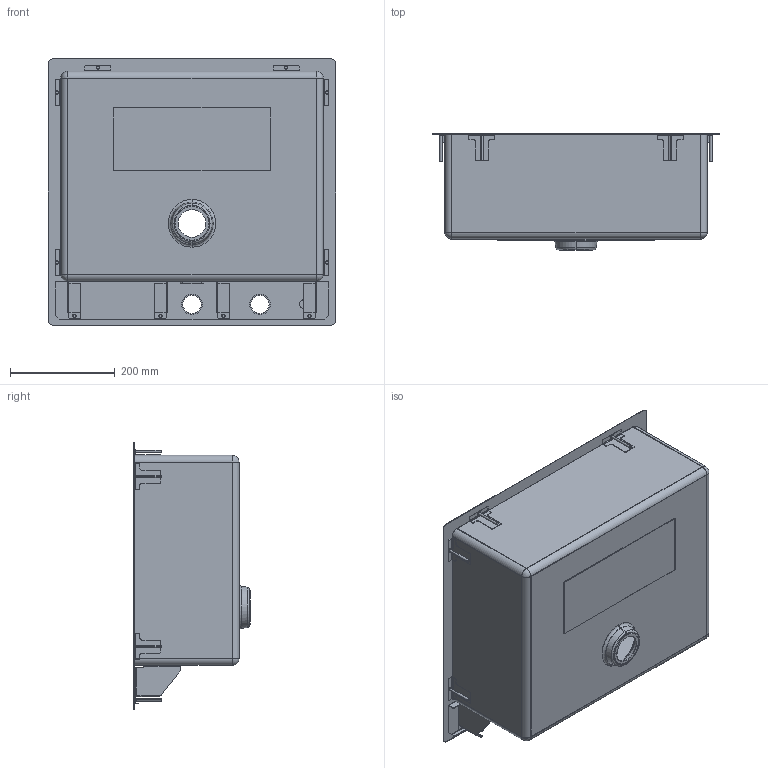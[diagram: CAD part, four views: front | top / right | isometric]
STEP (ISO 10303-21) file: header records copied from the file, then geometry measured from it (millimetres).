
FILE_DESCRIPTION (( 'STEP AP203' ), '1' );
FILE_NAME ('Matra Mix 55x51 1v automatica.STEP', '2021-01-27T12:56:11', ( 'Utente Windows' ), ( '' ), 'SwSTEP 2.0', 'SolidWorks 2020', '' );
FILE_SCHEMA (( 'CONFIG_CONTROL_DESIGN' ));
Length unit declared in the file: millimetre
Products named in the file (18): Ass. RC11SV_DX - RC11; RC11SV_DX - RC11; Ass. GB17P6; GB17P1 - base gancio_Piegato; RC11SV_SX - RC12; TF13 - smorzante 300x120x1,8; Matra - piletta integrata_MIX 55x51 1v 2f; GB17P4 - inserto filettato M5; Ass. RC11SV_SX - RC12; Matra Mix 55x51 1v automatica; RC21F - D5040_Piegato
Assembly tree (33 placements, depth 3):
  Matra Mix 55x51 1v automatica
    Matra - piletta integrata_MIX 55x51 1v 2f
    Ass. RC11SV_DX - RC11
      RC11SV_DX - RC11
      GB17P4 - inserto filettato M5
    Ass. RC11SV_SX - RC12
      RC11SV_SX - RC12
      GB17P4 - inserto filettato M5
    Ass. GB17P6
      GB17P1 - base gancio_Piegato
      GB17P4 - inserto filettato M5
    Ass. GB17P6
      GB17P1 - base gancio_Piegato
      GB17P4 - inserto filettato M5
    Ass. GB17P6
      GB17P1 - base gancio_Piegato
      GB17P4 - inserto filettato M5
    Ass. GB17P6
      GB17P1 - base gancio_Piegato
      GB17P4 - inserto filettato M5
    Ass. GB17P6
      GB17P1 - base gancio_Piegato
      GB17P4 - inserto filettato M5
    Ass. GB17P6
      GB17P1 - base gancio_Piegato
      GB17P4 - inserto filettato M5
    TF13 - smorzante 300x120x1,8
    RC21F - D5040_Piegato
    Ass. RC11SV_SX - RC12
      RC11SV_SX - RC12
      GB17P4 - inserto filettato M5
    Ass. RC11SV_DX - RC11
      RC11SV_DX - RC11
      GB17P4 - inserto filettato M5
Bounding box: 550 x 221.9 x 510 mm (x, y, z)
Volume: 727436.1 mm3; surface area: 1519725.6 mm2
Topology: 23 solids, 23 shells, 599 faces, 1447 edges, 894 vertices
Faces by surface type: plane 330, cylinder 221, cone 20, bspline 12, torus 8, sphere 8
Entity records: 11737 total; most frequent: CARTESIAN_POINT 1787, DIRECTION 1697, ORIENTED_EDGE 1542, EDGE_CURVE 771, AXIS2_PLACEMENT_3D 612, VERTEX_POINT 478, LINE 473, VECTOR 473
